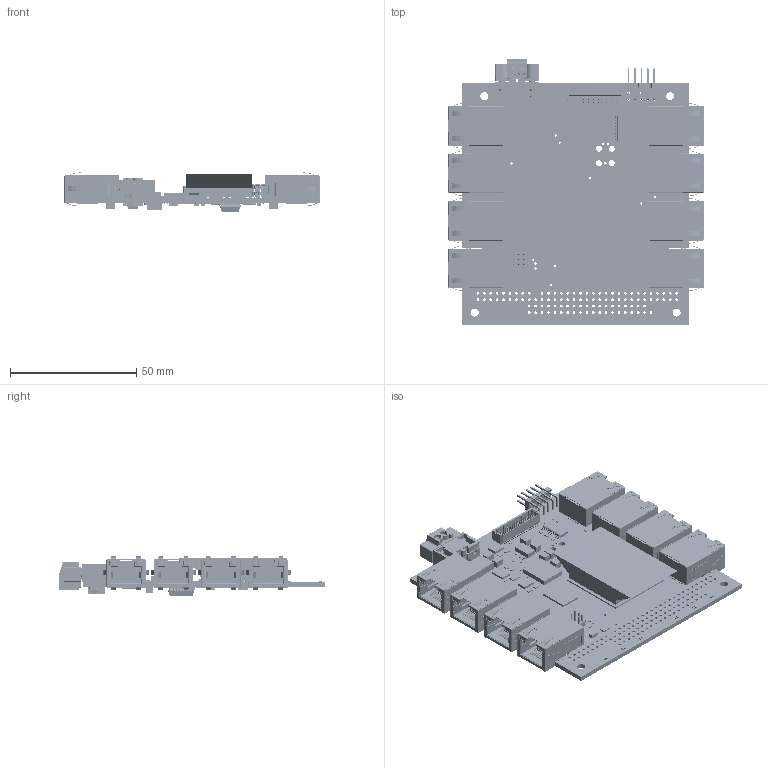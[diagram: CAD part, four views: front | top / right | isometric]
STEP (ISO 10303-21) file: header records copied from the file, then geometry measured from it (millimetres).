
FILE_DESCRIPTION(('Open CASCADE Model'),'2;1');
FILE_NAME('Open CASCADE Shape Model','2013-11-18T08:45:58',('Author'),( 'Open CASCADE'),'Open CASCADE STEP processor 6.2','Open CASCADE 6.2' ,'Unknown');
FILE_SCHEMA(('AUTOMOTIVE_DESIGN { 1 0 10303 214 1 1 1 1 }'));
Length unit declared in the file: millimetre
Products named in the file (396): PCB; Board; D2; 1027984736; Extruded; 1027979872; L4; 1027967072; L3; L2; L1; C138; 1027980128; 1027980000; C137; 1027979744; C136; C135; C134; C133; C132; C131; C130; C129; C128; 1027968352; 1027967712; C127; C126; C125; C124; 1027981664; 1027967584; C123; C122; C121; C120; C119; C118; C117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
Assembly tree (1120 placements, depth 4):
  PCB
    Board
    D2
      1027984736
        Extruded
      1027979872  x2
        Extruded
    L4
      1027967072
        Extruded
    L3
      1027967072
        Extruded
    L2
      1027967072
        Extruded
    L1
      1027967072
        Extruded
    C138
      1027980128
        Extruded
      1027980000  x2
        Extruded
    C137
      1027979872  x2
        Extruded
      1027979744
        Extruded
    C136
      1027979872  x2
        Extruded
      1027979744
        Extruded
    C135
      1027979872  x2
        Extruded
      1027979744
        Extruded
    C134
      1027979872  x2
        Extruded
      1027979744
        Extruded
    C133
      1027979872  x2
        Extruded
      1027979744
        Extruded
    C132
      1027979872  x2
        Extruded
      1027979744
        Extruded
    C131
      1027979872  x2
        Extruded
      1027979744
        Extruded
    C130
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Bounding box: 101.25 x 105.67 x 15.5 mm (x, y, z)
Volume: 41445.5 mm3; surface area: 67459.1 mm2
Topology: 807 solids, 807 shells, 15706 faces, 39627 edges, 25629 vertices
Faces by surface type: plane 12433, cylinder 2793, bspline 272, torus 80, sphere 78, cone 50
Full cylindrical faces by diameter (mm): 0.7 x2, 0.889 x8, 0.94 x10, 0.995 x6, 1.067 x102, 1.2 x18, 1.397 x16, 2.375 x4, 3.175 x4, 20 x1
Entity records: 330867 total; most frequent: CARTESIAN_POINT 71477, DIRECTION 44981, LINE 29475, VECTOR 29475, ORIENTED_EDGE 24022, PCURVE 24022, DEFINITIONAL_REPRESENTATION 24022, EDGE_CURVE 12011
